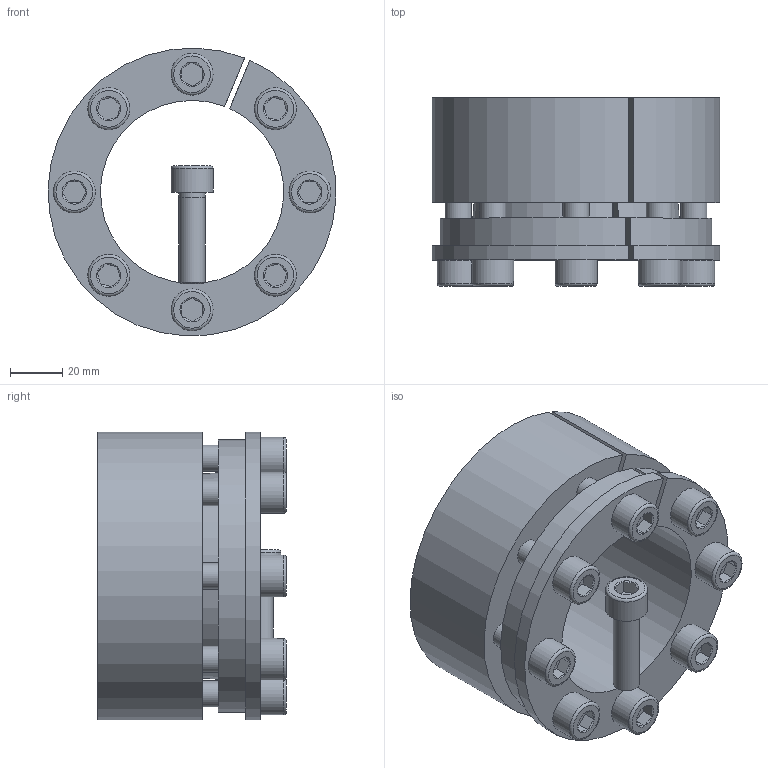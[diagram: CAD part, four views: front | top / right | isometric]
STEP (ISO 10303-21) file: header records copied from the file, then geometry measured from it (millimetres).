
FILE_DESCRIPTION( ( 'Unknown' ), '1' );
FILE_NAME( 'C:/Dokumente und Einstellungen/Sven/Desktop/homepage/cad - homepage/KBS70/KBS 70 - 70 x 110.stp', 'Unknown', ( 'Unknown' ), ( 'Unknown' ), 'XStep 1.0', 'Unknown', ' ' );
FILE_SCHEMA( ( 'automotive_design' ) );
Length unit declared in the file: millimetre
Products named in the file (3): Assem1; KBS 70 - 70 x 110; ISO EN DIN 4762 M10x35
Bounding box: 109.88 x 72 x 109.92 mm (x, y, z)
Volume: 588127.3 mm3; surface area: 155890.3 mm2
Topology: 11 solids, 11 shells, 285 faces, 583 edges, 356 vertices
Faces by surface type: plane 124, cylinder 76, cone 67, torus 18
Full cylindrical faces by diameter (mm): 9 x9, 10 x50, 16 x9
Entity records: 1882 total; most frequent: CARTESIAN_POINT 305, DIRECTION 284, ORIENTED_EDGE 206, AXIS2_PLACEMENT_3D 126, EDGE_LOOP 114, EDGE_CURVE 103, VERTEX_POINT 79, FACE_OUTER_BOUND 77
